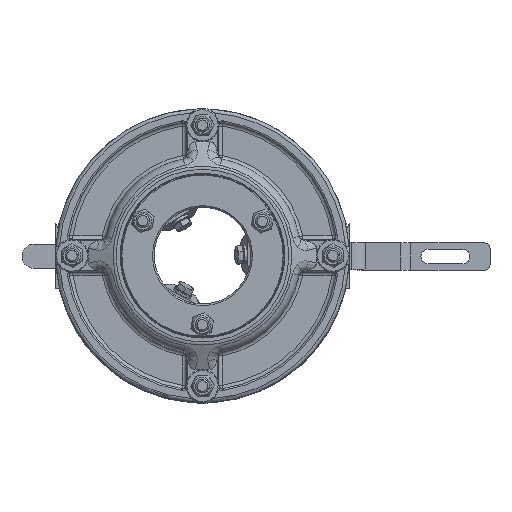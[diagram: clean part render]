
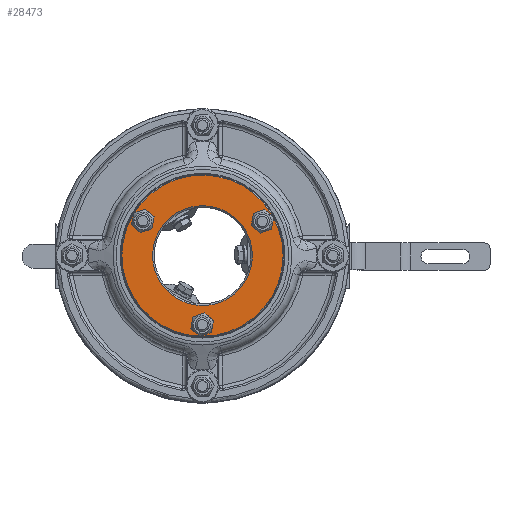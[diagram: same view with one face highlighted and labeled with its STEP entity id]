
A CAD part, top view. The second image highlights one B-rep face of the part: STEP entity #28473.
In plain terms, the highlighted planar face has unit normal (0, 0, 1).
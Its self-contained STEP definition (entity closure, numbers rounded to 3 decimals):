
#3946=PLANE('',#30861);
#5083=FACE_BOUND('',#8283,.T.);
#5084=FACE_BOUND('',#8284,.T.);
#5085=FACE_BOUND('',#8285,.T.);
#5086=FACE_BOUND('',#8286,.T.);
#6180=FACE_OUTER_BOUND('',#8282,.T.);
#8282=EDGE_LOOP('',(#20643));
#8283=EDGE_LOOP('',(#20644,#20645,#20646,#20647,#20648,#20649));
#8284=EDGE_LOOP('',(#20650,#20651,#20652,#20653,#20654,#20655));
#8285=EDGE_LOOP('',(#20656,#20657,#20658,#20659,#20660,#20661));
#8286=EDGE_LOOP('',(#20662));
#9968=CIRCLE('',#29808,9.525);
#9969=CIRCLE('',#29810,9.525);
#9970=CIRCLE('',#29812,9.525);
#9971=CIRCLE('',#29814,9.525);
#9972=CIRCLE('',#29816,9.525);
#9973=CIRCLE('',#29818,9.525);
#9978=CIRCLE('',#29834,9.525);
#9979=CIRCLE('',#29836,9.525);
#9980=CIRCLE('',#29838,9.525);
#9981=CIRCLE('',#29840,9.525);
#9982=CIRCLE('',#29842,9.525);
#9983=CIRCLE('',#29844,9.525);
#10416=CIRCLE('',#30862,74.15);
#10417=CIRCLE('',#30863,9.525);
#10418=CIRCLE('',#30864,9.525);
#10419=CIRCLE('',#30865,9.525);
#10420=CIRCLE('',#30866,9.525);
#10421=CIRCLE('',#30867,9.525);
#10422=CIRCLE('',#30868,9.525);
#10423=CIRCLE('',#30869,45.95);
#11504=VERTEX_POINT('',#40722);
#11506=VERTEX_POINT('',#40727);
#11508=VERTEX_POINT('',#40734);
#11509=VERTEX_POINT('',#40743);
#11512=VERTEX_POINT('',#40754);
#11513=VERTEX_POINT('',#40763);
#11526=VERTEX_POINT('',#40830);
#11528=VERTEX_POINT('',#40835);
#11530=VERTEX_POINT('',#40842);
#11531=VERTEX_POINT('',#40851);
#11534=VERTEX_POINT('',#40862);
#11535=VERTEX_POINT('',#40871);
#12409=VERTEX_POINT('',#44279);
#12410=VERTEX_POINT('',#44281);
#12411=VERTEX_POINT('',#44282);
#12412=VERTEX_POINT('',#44284);
#12413=VERTEX_POINT('',#44286);
#12414=VERTEX_POINT('',#44288);
#12415=VERTEX_POINT('',#44290);
#12416=VERTEX_POINT('',#44293);
#14072=EDGE_CURVE('',#11506,#11504,#9968,.T.);
#14076=EDGE_CURVE('',#11508,#11506,#9969,.T.);
#14078=EDGE_CURVE('',#11504,#11509,#9970,.T.);
#14082=EDGE_CURVE('',#11512,#11508,#9971,.T.);
#14084=EDGE_CURVE('',#11509,#11513,#9972,.T.);
#14088=EDGE_CURVE('',#11513,#11512,#9973,.T.);
#14106=EDGE_CURVE('',#11528,#11526,#9978,.T.);
#14110=EDGE_CURVE('',#11530,#11528,#9979,.T.);
#14112=EDGE_CURVE('',#11526,#11531,#9980,.T.);
#14116=EDGE_CURVE('',#11534,#11530,#9981,.T.);
#14118=EDGE_CURVE('',#11531,#11535,#9982,.T.);
#14122=EDGE_CURVE('',#11535,#11534,#9983,.T.);
#15450=EDGE_CURVE('',#12409,#12409,#10416,.T.);
#15451=EDGE_CURVE('',#12410,#12411,#10417,.T.);
#15452=EDGE_CURVE('',#12411,#12412,#10418,.T.);
#15453=EDGE_CURVE('',#12412,#12413,#10419,.T.);
#15454=EDGE_CURVE('',#12413,#12414,#10420,.T.);
#15455=EDGE_CURVE('',#12414,#12415,#10421,.T.);
#15456=EDGE_CURVE('',#12415,#12410,#10422,.T.);
#15457=EDGE_CURVE('',#12416,#12416,#10423,.T.);
#20643=ORIENTED_EDGE('',*,*,#15450,.F.);
#20644=ORIENTED_EDGE('',*,*,#14072,.T.);
#20645=ORIENTED_EDGE('',*,*,#14078,.T.);
#20646=ORIENTED_EDGE('',*,*,#14084,.T.);
#20647=ORIENTED_EDGE('',*,*,#14088,.T.);
#20648=ORIENTED_EDGE('',*,*,#14082,.T.);
#20649=ORIENTED_EDGE('',*,*,#14076,.T.);
#20650=ORIENTED_EDGE('',*,*,#14106,.T.);
#20651=ORIENTED_EDGE('',*,*,#14112,.T.);
#20652=ORIENTED_EDGE('',*,*,#14118,.T.);
#20653=ORIENTED_EDGE('',*,*,#14122,.T.);
#20654=ORIENTED_EDGE('',*,*,#14116,.T.);
#20655=ORIENTED_EDGE('',*,*,#14110,.T.);
#20656=ORIENTED_EDGE('',*,*,#15451,.T.);
#20657=ORIENTED_EDGE('',*,*,#15452,.T.);
#20658=ORIENTED_EDGE('',*,*,#15453,.T.);
#20659=ORIENTED_EDGE('',*,*,#15454,.T.);
#20660=ORIENTED_EDGE('',*,*,#15455,.T.);
#20661=ORIENTED_EDGE('',*,*,#15456,.T.);
#20662=ORIENTED_EDGE('',*,*,#15457,.F.);
#28473=ADVANCED_FACE('',(#6180,#5083,#5084,#5085,#5086),#3946,.T.);
#29808=AXIS2_PLACEMENT_3D('',#40728,#33202,#33203);
#29810=AXIS2_PLACEMENT_3D('',#40741,#33206,#33207);
#29812=AXIS2_PLACEMENT_3D('',#40748,#33210,#33211);
#29814=AXIS2_PLACEMENT_3D('',#40761,#33214,#33215);
#29816=AXIS2_PLACEMENT_3D('',#40768,#33218,#33219);
#29818=AXIS2_PLACEMENT_3D('',#40780,#33222,#33223);
#29834=AXIS2_PLACEMENT_3D('',#40836,#33260,#33261);
#29836=AXIS2_PLACEMENT_3D('',#40849,#33264,#33265);
#29838=AXIS2_PLACEMENT_3D('',#40856,#33268,#33269);
#29840=AXIS2_PLACEMENT_3D('',#40869,#33272,#33273);
#29842=AXIS2_PLACEMENT_3D('',#40876,#33276,#33277);
#29844=AXIS2_PLACEMENT_3D('',#40888,#33280,#33281);
#30861=AXIS2_PLACEMENT_3D('',#44278,#35912,#35913);
#30862=AXIS2_PLACEMENT_3D('',#44280,#35914,#35915);
#30863=AXIS2_PLACEMENT_3D('',#44283,#35916,#35917);
#30864=AXIS2_PLACEMENT_3D('',#44285,#35918,#35919);
#30865=AXIS2_PLACEMENT_3D('',#44287,#35920,#35921);
#30866=AXIS2_PLACEMENT_3D('',#44289,#35922,#35923);
#30867=AXIS2_PLACEMENT_3D('',#44291,#35924,#35925);
#30868=AXIS2_PLACEMENT_3D('',#44292,#35926,#35927);
#30869=AXIS2_PLACEMENT_3D('',#44294,#35928,#35929);
#33202=DIRECTION('center_axis',(0.,0.,
-1.));
#33203=DIRECTION('ref_axis',(0.754,-0.657,0.));
#33206=DIRECTION('center_axis',(0.,0.,
-1.));
#33207=DIRECTION('ref_axis',(0.754,-0.657,0.));
#33210=DIRECTION('center_axis',(0.,0.,
-1.));
#33211=DIRECTION('ref_axis',(0.754,-0.657,0.));
#33214=DIRECTION('center_axis',(0.,0.,
-1.));
#33215=DIRECTION('ref_axis',(0.754,-0.657,0.));
#33218=DIRECTION('center_axis',(0.,0.,
-1.));
#33219=DIRECTION('ref_axis',(0.754,-0.657,0.));
#33222=DIRECTION('center_axis',(0.,0.,
-1.));
#33223=DIRECTION('ref_axis',(0.754,-0.657,0.));
#33260=DIRECTION('center_axis',(0.,0.,
-1.));
#33261=DIRECTION('ref_axis',(0.192,0.981,0.));
#33264=DIRECTION('center_axis',(0.,0.,
-1.));
#33265=DIRECTION('ref_axis',(0.192,0.981,0.));
#33268=DIRECTION('center_axis',(0.,0.,
-1.));
#33269=DIRECTION('ref_axis',(0.192,0.981,0.));
#33272=DIRECTION('center_axis',(0.,0.,
-1.));
#33273=DIRECTION('ref_axis',(0.192,0.981,0.));
#33276=DIRECTION('center_axis',(0.,0.,
-1.));
#33277=DIRECTION('ref_axis',(0.192,0.981,0.));
#33280=DIRECTION('center_axis',(0.,0.,
-1.));
#33281=DIRECTION('ref_axis',(0.192,0.981,0.));
#35912=DIRECTION('center_axis',(0.,0.,
1.));
#35913=DIRECTION('ref_axis',(-1.,0.004,0.));
#35914=DIRECTION('center_axis',(0.,0.,
-1.));
#35915=DIRECTION('ref_axis',(1.,-0.004,0.));
#35916=DIRECTION('center_axis',(0.,0.,
-1.));
#35917=DIRECTION('ref_axis',(-0.946,-0.325,0.));
#35918=DIRECTION('center_axis',(0.,0.,
-1.));
#35919=DIRECTION('ref_axis',(-0.946,-0.325,0.));
#35920=DIRECTION('center_axis',(0.,0.,
-1.));
#35921=DIRECTION('ref_axis',(-0.946,-0.325,0.));
#35922=DIRECTION('center_axis',(0.,0.,
-1.));
#35923=DIRECTION('ref_axis',(-0.946,-0.325,0.));
#35924=DIRECTION('center_axis',(0.,0.,
-1.));
#35925=DIRECTION('ref_axis',(-0.946,-0.325,0.));
#35926=DIRECTION('center_axis',(0.,0.,
-1.));
#35927=DIRECTION('ref_axis',(-0.946,-0.325,0.));
#35928=DIRECTION('center_axis',(0.,0.,
1.));
#35929=DIRECTION('ref_axis',(1.,-0.004,0.));
#40722=CARTESIAN_POINT('',(-48.601,115.549,452.288));
#40727=CARTESIAN_POINT('',(-57.949,117.374,452.288));
#40728=CARTESIAN_POINT('Origin',(-54.856,108.365,452.288));
#40734=CARTESIAN_POINT('',(-64.204,110.19,452.288));
#40741=CARTESIAN_POINT('Origin',(-54.856,108.365,452.288));
#40743=CARTESIAN_POINT('',(-45.507,106.54,452.288));
#40748=CARTESIAN_POINT('Origin',(-54.856,108.365,452.288));
#40754=CARTESIAN_POINT('',(-61.11,101.182,452.288));
#40761=CARTESIAN_POINT('Origin',(-54.856,108.365,452.288));
#40763=CARTESIAN_POINT('',(-51.762,99.357,452.288));
#40768=CARTESIAN_POINT('Origin',(-54.856,108.365,452.288));
#40780=CARTESIAN_POINT('Origin',(-54.856,108.365,452.288));
#40830=CARTESIAN_POINT('',(-9.622,14.704,452.288));
#40835=CARTESIAN_POINT('',(-6.528,5.696,452.288));
#40836=CARTESIAN_POINT('Origin',(-0.273,12.879,452.288));
#40842=CARTESIAN_POINT('',(2.821,3.871,452.288));
#40849=CARTESIAN_POINT('Origin',(-0.273,12.879,452.288));
#40851=CARTESIAN_POINT('',(-3.367,21.888,452.288));
#40856=CARTESIAN_POINT('Origin',(-0.273,12.879,452.288));
#40862=CARTESIAN_POINT('',(9.075,11.054,452.288));
#40869=CARTESIAN_POINT('Origin',(-0.273,12.879,452.288));
#40871=CARTESIAN_POINT('',(5.982,20.063,452.288));
#40876=CARTESIAN_POINT('Origin',(-0.273,12.879,452.288));
#40888=CARTESIAN_POINT('Origin',(-0.273,12.879,452.288));
#44278=CARTESIAN_POINT('Origin',(-59.699,76.636,452.288));
#44279=CARTESIAN_POINT('',(-74.149,76.698,452.288));
#44280=CARTESIAN_POINT('Origin',(0.,76.379,
452.288));
#44281=CARTESIAN_POINT('',(45.78,109.717,452.288));
#44282=CARTESIAN_POINT('',(52.035,116.901,452.288));
#44283=CARTESIAN_POINT('Origin',(55.129,107.892,452.288));
#44284=CARTESIAN_POINT('',(61.383,115.076,452.288));
#44285=CARTESIAN_POINT('Origin',(55.129,107.892,452.288));
#44286=CARTESIAN_POINT('',(64.477,106.067,452.288));
#44287=CARTESIAN_POINT('Origin',(55.129,107.892,452.288));
#44288=CARTESIAN_POINT('',(58.222,98.883,452.288));
#44289=CARTESIAN_POINT('Origin',(55.129,107.892,452.288));
#44290=CARTESIAN_POINT('',(48.874,100.708,452.288));
#44291=CARTESIAN_POINT('Origin',(55.129,107.892,452.288));
#44292=CARTESIAN_POINT('Origin',(55.129,107.892,452.288));
#44293=CARTESIAN_POINT('',(-45.95,76.577,452.288));
#44294=CARTESIAN_POINT('Origin',(0.,76.379,
452.288));
